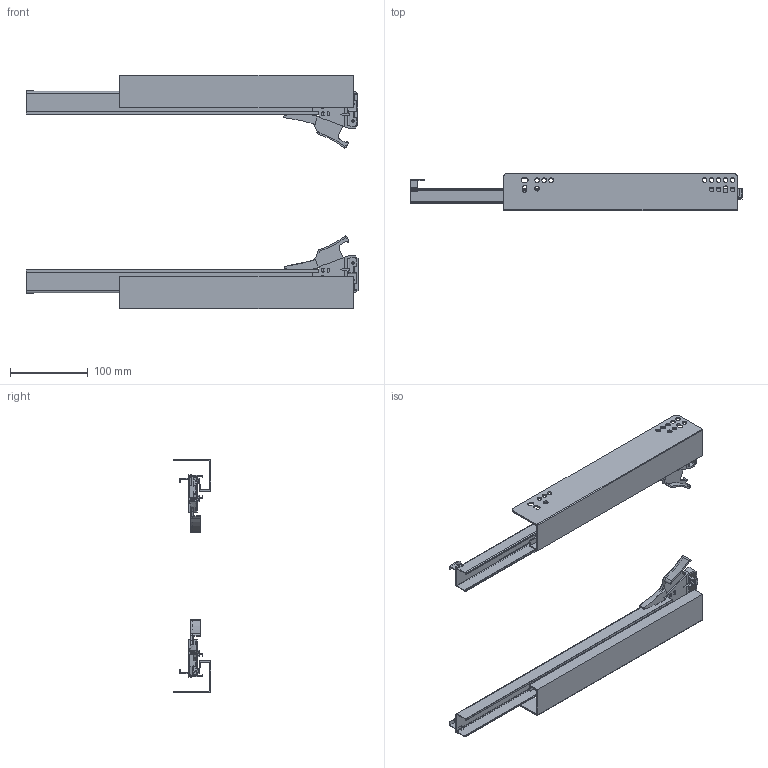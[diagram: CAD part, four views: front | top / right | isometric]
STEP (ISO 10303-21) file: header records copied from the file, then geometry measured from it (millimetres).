
FILE_DESCRIPTION(/* description */ (''),/* implementation_level */ '2;1');
FILE_NAME(/* name */ 'C:\Users\dmitruk\Documents\WORK\НАПРАВЛЯЮЩИЕ\Скрытого монтажа\PUSH\Направляющие скрытого монтажа PUSH TO OPEN\Направляющие скрытого монтажа PUSH TO OPEN-400.stp',/* time_stamp */ '2022-04-22T12:22:44+03:00',/* author */ ('dmitruk'),/* organization */ (''),/* preprocessor_version */ 'ST-DEVELOPER v16.5',/* originating_system */ 'Autodesk Inventor 2017',/* authorisation */ '');
FILE_SCHEMA (('AUTOMOTIVE_DESIGN { 1 0 10303 214 3 1 1 }'));
Length unit declared in the file: millimetre
Products named in the file (13): Направляющие \X2\0441043A
0440044B0442043E0433043E\X0\ монтажа PUSH
 TO OPEN; 3D CP Push; 3D DP Push; 3D CP Push LEFT; 3D DP Push LEFT; Замок Push R; Твердое \X2\04420435043B043E
\X0\1; Твердое \X2\04420435043B043E
\X0\2; Твердое \X2\04420435043B043E
\X0\3; Замок Pusg L; Твердое \X2\04420435043B043E
\X0\1_1; Твердое \X2\04420435043B043E
\X0\2_1; Твердое \X2\04420435043B043E
\X0\3_1
Assembly tree (12 placements, depth 3):
  Направляющие \X2\0441043A
0440044B0442043E0433043E\X0\ монтажа PUSH
 TO OPEN
    3D CP Push
    3D DP Push
    3D CP Push LEFT
    3D DP Push LEFT
    Замок Push R
      Твердое \X2\04420435043B043E
\X0\1
      Твердое \X2\04420435043B043E
\X0\2
      Твердое \X2\04420435043B043E
\X0\3
    Замок Pusg L
      Твердое \X2\04420435043B043E
\X0\1_1
      Твердое \X2\04420435043B043E
\X0\2_1
      Твердое \X2\04420435043B043E
\X0\3_1
Bounding box: 426 x 48 x 300 mm (x, y, z)
Volume: 204410.5 mm3; surface area: 263269.4 mm2
Topology: 10 solids, 10 shells, 812 faces, 2272 edges, 1504 vertices
Faces by surface type: plane 542, cylinder 250, cone 10, bspline 6, sphere 2, torus 2
Full cylindrical faces by diameter (mm): 3 x12, 6 x26
Entity records: 26647 total; most frequent: CARTESIAN_POINT 4887, ORIENTED_EDGE 4428, DIRECTION 4392, EDGE_CURVE 2214, LINE 1646, VECTOR 1646, VERTEX_POINT 1492, AXIS2_PLACEMENT_3D 1373
